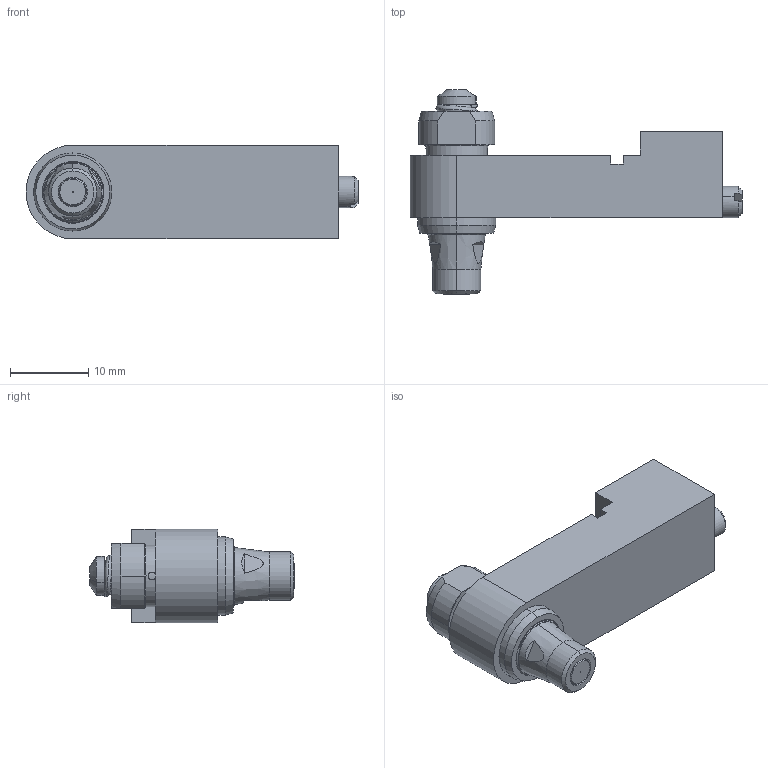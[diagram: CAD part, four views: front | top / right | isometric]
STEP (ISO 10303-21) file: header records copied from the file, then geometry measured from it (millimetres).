
FILE_DESCRIPTION(('FreeCAD Model'),'2;1');
FILE_NAME('C:/Users/martin.stroffek/Desktop/Fluid bodies/NORDSONEFD_Pico Pulse Fluid Assembly P7_3D model.step','2019-10-15T23:58:51',('Author'),(''), 'Open CASCADE STEP processor 7.2','FreeCAD','Unknown');
FILE_SCHEMA(('AUTOMOTIVE_DESIGN { 1 0 10303 214 1 1 1 1 }'));
Length unit declared in the file: millimetre
Products named in the file (1): NORDSONEFD_Pico_Pulse_Fluid_Assembly_P7
Bounding box: 42.48 x 26.14 x 11.96 mm (x, y, z)
Volume: 4562.7 mm3; surface area: 3499.2 mm2
Topology: 1 solids, 1 shells, 217 faces, 546 edges, 341 vertices
Faces by surface type: cylinder 75, cone 61, plane 52, torus 20, bspline 9
Entity records: 23133 total; most frequent: CARTESIAN_POINT 12605, DIRECTION 1898, ORIENTED_EDGE 1088, PCURVE 1088, DEFINITIONAL_REPRESENTATION 1088, LINE 965, VECTOR 965, EDGE_CURVE 544
